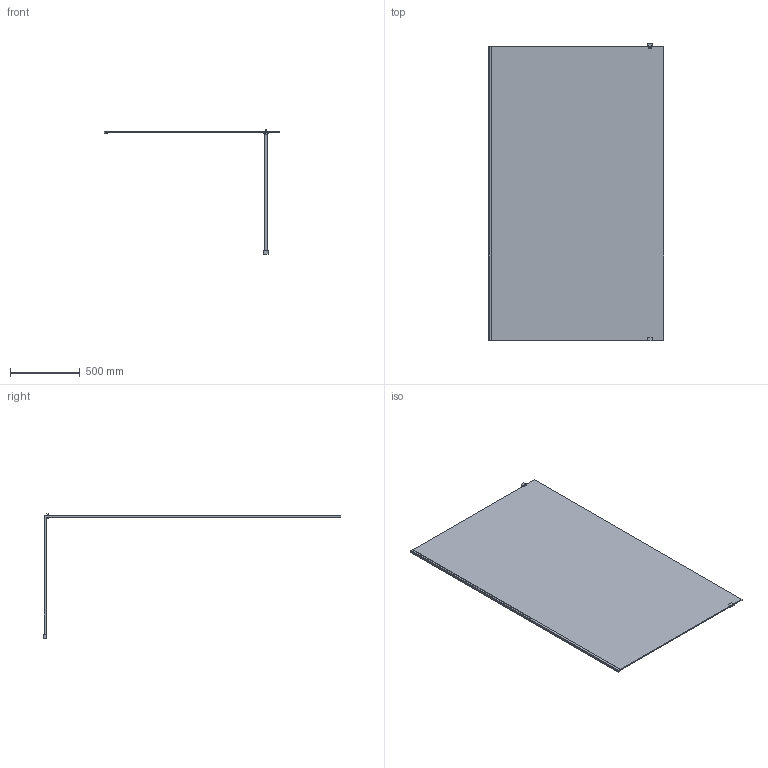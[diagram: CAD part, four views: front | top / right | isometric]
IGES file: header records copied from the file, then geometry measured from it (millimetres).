
Start section: SolidWorks IGES file using analytic representation for surfaces
Global section: file name: D:\Users\M.Szymanski\Desktop\Kabiny\PIII_ALTIIa\03. do przegrania\PIII_ALTIIa_130_K3D.IGS; native system: SolidWorks 2011; preprocessor: SolidWorks 2011; author: M.Szymanski; date: 181005.105753; units: millimetre
Bounding box: 1258.45 x 2128 x 894.4 mm (x, y, z)
Surface area: 5589824.1 mm2 (no closed solid volume)
Topology: 0 solids, 0 shells, 52 faces, 372 edges, 496 vertices
Faces by surface type: bspline 52
